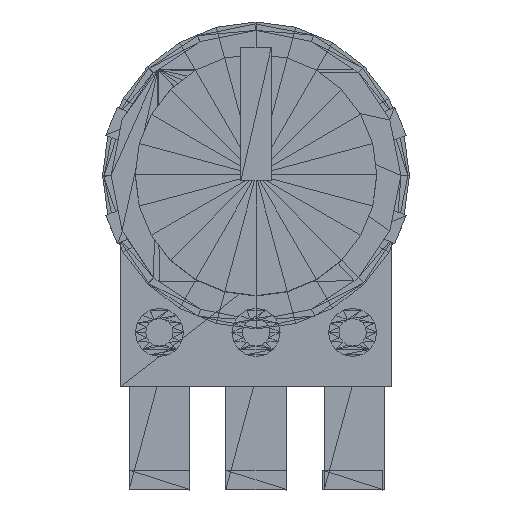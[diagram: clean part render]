
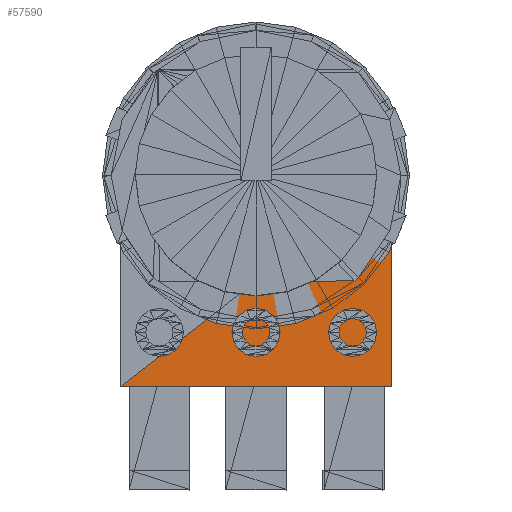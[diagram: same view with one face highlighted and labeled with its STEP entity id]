
A CAD part, top view. The second image highlights one B-rep face of the part: STEP entity #57590.
In plain terms, the highlighted planar face has unit normal (0, 0, -1).
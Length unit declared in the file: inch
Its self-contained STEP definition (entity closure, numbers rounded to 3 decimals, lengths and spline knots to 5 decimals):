
#57291=CARTESIAN_POINT('',(-0.28125,-0.43767,0.71616));
#57292=VERTEX_POINT('',#57291);
#57325=CARTESIAN_POINT('',(0.28125,-0.00017,0.71625));
#57326=VERTEX_POINT('',#57325);
#57393=CARTESIAN_POINT('',(0.28125,-0.43767,0.71616));
#57394=VERTEX_POINT('',#57393);
#57395=CARTESIAN_POINT('',(-0.28125,-0.43767,0.71616));
#57396=DIRECTION('',(1.,0.,-0.));
#57397=VECTOR('',#57396,0.5625);
#57398=LINE('',#57395,#57397);
#57399=EDGE_CURVE('',#57292,#57394,#57398,.T.);
#57468=CARTESIAN_POINT('',(0.28125,-0.43767,0.71616));
#57469=DIRECTION('',(0.,1.,0.));
#57470=VECTOR('',#57469,0.4375);
#57471=LINE('',#57468,#57470);
#57472=EDGE_CURVE('',#57394,#57326,#57471,.T.);
#57570=CARTESIAN_POINT('',(-0.28125,-0.43767,0.71616));
#57571=DIRECTION('',(0.789,0.614,0.));
#57572=VECTOR('',#57571,0.71261);
#57573=LINE('',#57570,#57572);
#57574=EDGE_CURVE('',#57292,#57326,#57573,.T.);
#57580=CARTESIAN_POINT('',(-0.28125,-0.43767,0.71616));
#57581=DIRECTION('',(0.,0.,1.));
#57582=DIRECTION('',(1.,-0.,0.));
#57583=AXIS2_PLACEMENT_3D('',#57580,#57581,#57582);
#57584=PLANE('',#57583);
#57585=ORIENTED_EDGE('',*,*,#57574,.T.);
#57586=ORIENTED_EDGE('',*,*,#57472,.F.);
#57587=ORIENTED_EDGE('',*,*,#57399,.F.);
#57588=EDGE_LOOP('',(#57585,#57586,#57587));
#57589=FACE_BOUND('',#57588,.T.);
#57590=ADVANCED_FACE('',(#57589),#57584,.F.);
